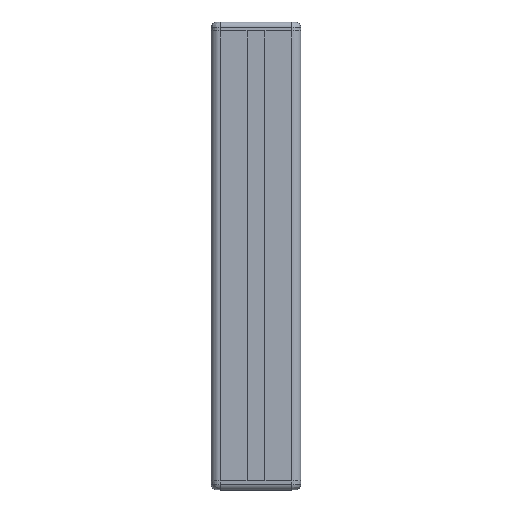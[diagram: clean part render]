
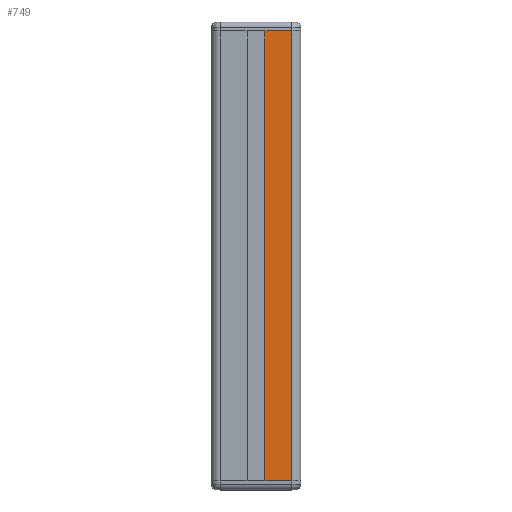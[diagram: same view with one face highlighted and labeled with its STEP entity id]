
A CAD part, top view. The second image highlights one B-rep face of the part: STEP entity #749.
In plain terms, the highlighted planar face has unit normal (0, 0, 1).
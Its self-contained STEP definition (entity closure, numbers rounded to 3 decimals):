
#530=LINE('',#3384,#593);
#533=LINE('',#3399,#596);
#534=LINE('',#3401,#597);
#535=LINE('',#3403,#598);
#593=VECTOR('',#2400,1.);
#596=VECTOR('',#2411,1.);
#597=VECTOR('',#2414,1.);
#598=VECTOR('',#2415,1.);
#749=ADVANCED_FACE('',(#864),#812,.F.);
#812=PLANE('',#2234);
#864=FACE_OUTER_BOUND('',#948,.T.);
#948=EDGE_LOOP('',(#1244,#1245,#1246,#1247));
#1244=ORIENTED_EDGE('',*,*,#1883,.T.);
#1245=ORIENTED_EDGE('',*,*,#1884,.T.);
#1246=ORIENTED_EDGE('',*,*,#1885,.F.);
#1247=ORIENTED_EDGE('',*,*,#1877,.F.);
#1644=VERTEX_POINT('',#3383);
#1645=VERTEX_POINT('',#3385);
#1648=VERTEX_POINT('',#3398);
#1649=VERTEX_POINT('',#3402);
#1877=EDGE_CURVE('',#1644,#1645,#530,.T.);
#1883=EDGE_CURVE('',#1644,#1648,#533,.T.);
#1884=EDGE_CURVE('',#1648,#1649,#534,.T.);
#1885=EDGE_CURVE('',#1645,#1649,#535,.T.);
#2234=AXIS2_PLACEMENT_3D('',#3404,#2416,#2417);
#2400=DIRECTION('',(-1.,0.,0.));
#2411=DIRECTION('',(0.,1.,0.));
#2414=DIRECTION('',(-1.,0.,0.));
#2415=DIRECTION('',(0.,1.,0.));
#2416=DIRECTION('',(0.,0.,-1.));
#2417=DIRECTION('',(0.,-1.,0.));
#3383=CARTESIAN_POINT('',(36.,0.,0.));
#3384=CARTESIAN_POINT('',(36.,0.,0.));
#3385=CARTESIAN_POINT('',(24.,0.,0.));
#3398=CARTESIAN_POINT('',(36.,200.,0.));
#3399=CARTESIAN_POINT('',(36.,720.,0.));
#3401=CARTESIAN_POINT('',(36.,200.,0.));
#3402=CARTESIAN_POINT('',(24.,200.,0.));
#3403=CARTESIAN_POINT('',(24.,720.,0.));
#3404=CARTESIAN_POINT('',(36.,720.,0.));
